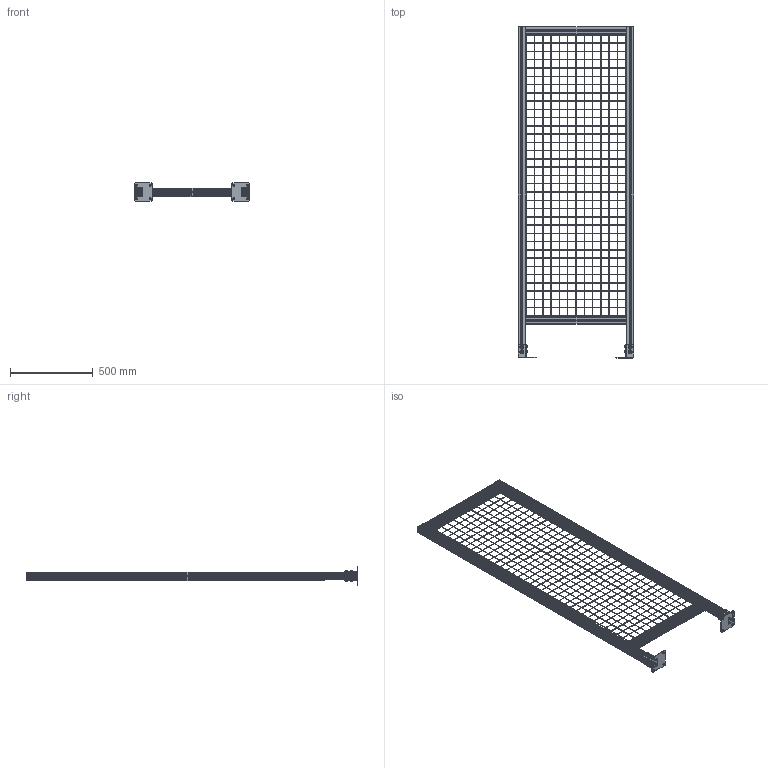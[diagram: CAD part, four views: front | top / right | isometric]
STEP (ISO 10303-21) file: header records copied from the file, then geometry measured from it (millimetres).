
FILE_DESCRIPTION (( 'STEP AP214' ), '1' );
FILE_NAME ('SG-45-700-2000.STEP', '2024-03-18T07:53:22', ( '' ), ( '' ), 'SwSTEP 2.0', 'SolidWorks 2022', '' );
FILE_SCHEMA (( 'AUTOMOTIVE_DESIGN' ));
Length unit declared in the file: millimetre
Products named in the file (19): 11451-М1-4; ZP-10-1S_L=610 мм; SG-45-700-2000; ZP-10-1S_L=1800 мм; 11451-М1-2; OB-4545SL Профиль 45х45 мм. Суперлегкий, Паз 10 мм (Без покрытия)_L=610 мм; 4004; 5108 новый_Упрощенный; 11451-М1; 11451-М1-3; Винт полусфера ISO 7380_М8х20; Сетка 1730х640; Шайба увеличенная ГОСТ 6958-78_М8 ГОСТ 6958-78; Винт с внутренним шестигранником ISO 4762 (без резьбы)_М6х30 30ХГСА; 5074; OB-4545SL Профиль 45х45 мм. Суперлегкий, Паз 10 мм (Без покрытия)_L=2000 мм; 11451-М1-1
Assembly tree (79 placements, depth 3):
  SG-45-700-2000
    OB-4545SL Профиль 45х45 мм. Суперлегкий, Паз 10 мм (Без покрытия)_L=2000 мм
    11451-М1  x2
      11451-М1-1
      11451-М1-2
      11451-М1-3
      11451-М1-4
    OB-4545SL Профиль 45х45 мм. Суперлегкий, Паз 10 мм (Без покрытия)_L=2000 мм
    OB-4545SL Профиль 45х45 мм. Суперлегкий, Паз 10 мм (Без покрытия)_L=610 мм
    OB-4545SL Профиль 45х45 мм. Суперлегкий, Паз 10 мм (Без покрытия)_L=610 мм
    Сетка 1730х640
    ZP-10-1S_L=1800 мм  x2
    ZP-10-1S_L=610 мм  x2
    Винт с внутренним шестигранником ISO 4762 (без резьбы)_М6х30 30ХГСА  x20
    5108 новый_Упрощенный  x4
    4004  x2
    Винт полусфера ISO 7380_М8х20  x12
    5074  x12
    Шайба увеличенная ГОСТ 6958-78_М8 ГОСТ 6958-78  x12
Bounding box: 700 x 2008.1 x 110 mm (x, y, z)
Volume: 3613175.7 mm3; surface area: 4776851.2 mm2
Topology: 266 solids, 266 shells, 6286 faces, 16252 edges, 10292 vertices
Faces by surface type: plane 3292, cylinder 1942, bspline 448, sphere 216, cone 200, torus 188
Entity records: 109887 total; most frequent: CARTESIAN_POINT 26320, ORIENTED_EDGE 17246, DIRECTION 15497, EDGE_CURVE 8623, VERTEX_POINT 5700, AXIS2_PLACEMENT_3D 5197, VECTOR 5103, LINE 5103
